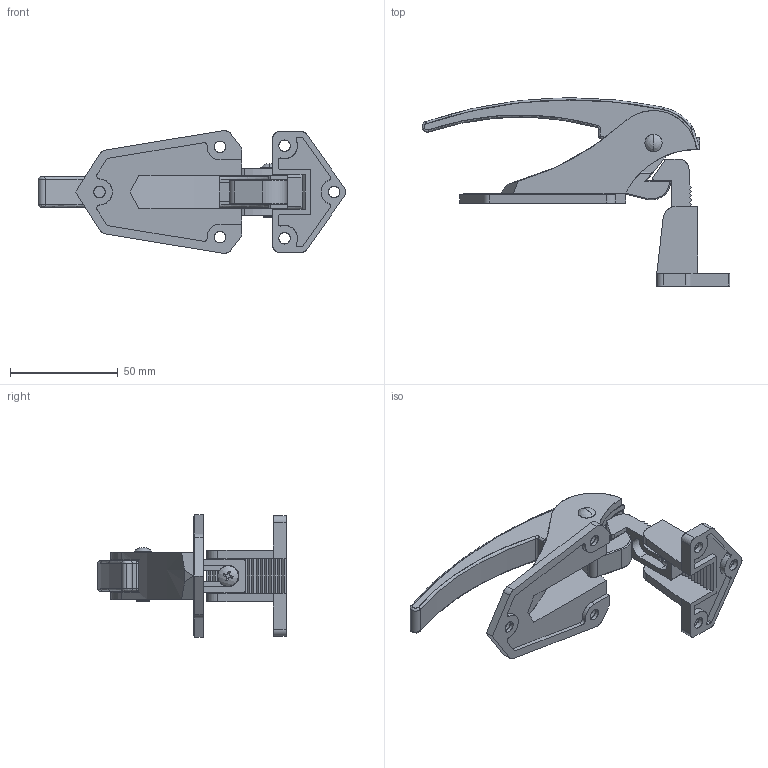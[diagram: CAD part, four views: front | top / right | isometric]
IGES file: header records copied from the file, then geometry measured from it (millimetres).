
Start section: SolidWorks IGES file using analytic representation for surfaces
Global section: file name: D:\尚坤工业图纸\SK1--门锁系列\SK1-78013\SK1-78013.IGS; native system: SolidWorks 2015; preprocessor: SolidWorks 2015; author: admin; date: 181101.114941; units: millimetre
Bounding box: 143 x 87.5 x 57 mm (x, y, z)
Surface area: 37414.6 mm2 (no closed solid volume)
Topology: 0 solids, 0 shells, 407 faces, 4504 edges, 4495 vertices
Faces by surface type: bspline 220, revolution 187
